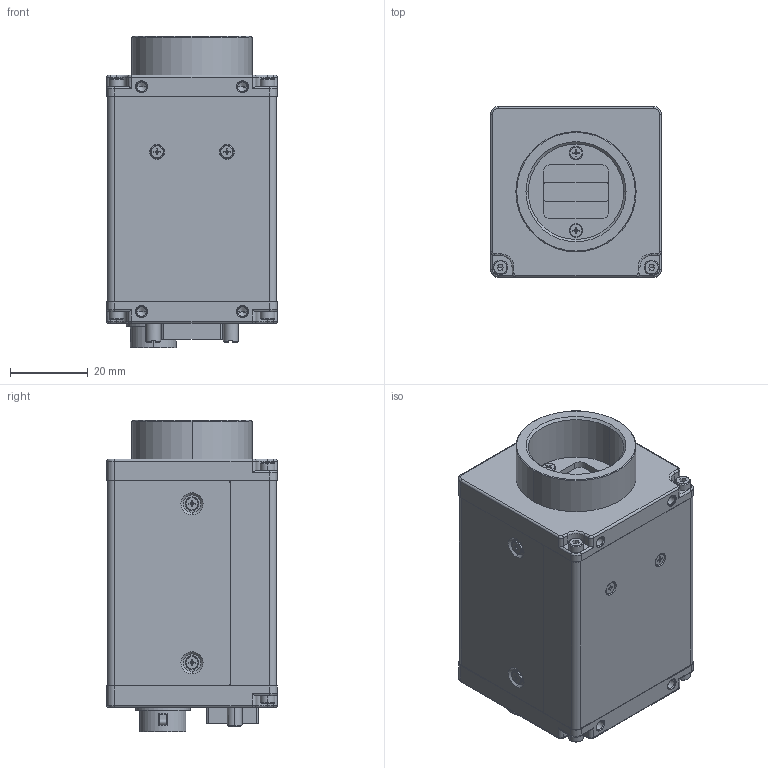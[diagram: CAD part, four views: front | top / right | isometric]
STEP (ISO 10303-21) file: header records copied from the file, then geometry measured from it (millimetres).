
FILE_DESCRIPTION((''),'2;1');
FILE_NAME('SW-2005M-5GE_MOCK','2024-03-25T18:06:01',('aso'),(''),'CREO PARAMETRIC BY PTC INC, 2019352','CREO PARAMETRIC BY PTC INC, 2019352','');
FILE_SCHEMA(('AUTOMOTIVE_DESIGN { 1 0 10303 214 1 1 1 1 }'));
Length unit declared in the file: millimetre
Products named in the file (1): SW-2005M-5GE_MOCK
Bounding box: 44 x 44 x 80.3 mm (x, y, z)
Volume: 122301.4 mm3; surface area: 20031.2 mm2
Topology: 2 solids, 12 shells, 841 faces, 2223 edges, 1413 vertices
Faces by surface type: plane 402, cylinder 268, cone 99, torus 48, sphere 24
Entity records: 33313 total; most frequent: CARTESIAN_POINT 5951, DIRECTION 4377, ORIENTED_EDGE 4308, EDGE_CURVE 2171, AXIS2_PLACEMENT_3D 1618, VERTEX_POINT 1413, PRESENTATION_STYLE_ASSIGNMENT 1196, STYLED_ITEM 1147
